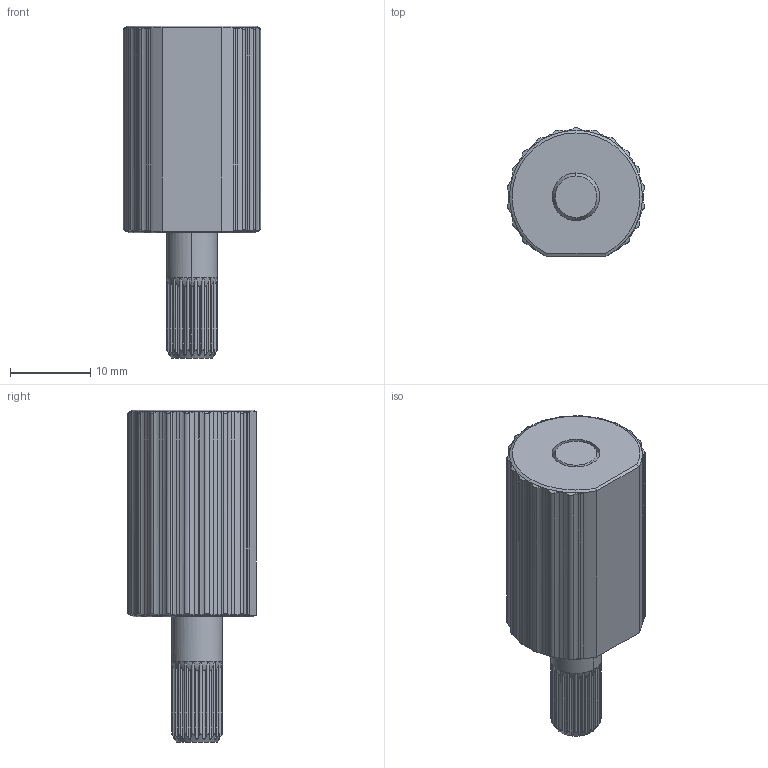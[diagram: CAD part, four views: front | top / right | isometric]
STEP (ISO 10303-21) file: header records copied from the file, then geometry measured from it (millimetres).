
FILE_DESCRIPTION (( 'STEP AP214' ), '1' );
FILE_NAME ('Reell TI-340-X.XX-01.STEP', '2014-10-17T13:43:22', ( 'OSI_Administrator' ), ( '' ), 'SwSTEP 2.0', 'SolidWorks 2014', '' );
FILE_SCHEMA (( 'AUTOMOTIVE_DESIGN' ));
Length unit declared in the file: millimetre
Products named in the file (1): Reell TI-340-X.XX-01
Bounding box: 17.13 x 16.05 x 41.44 mm (x, y, z)
Volume: 6096.7 mm3; surface area: 2184.2 mm2
Topology: 1 solids, 1 shells, 236 faces, 650 edges, 418 vertices
Faces by surface type: cylinder 139, plane 47, torus 34, cone 16
Entity records: 8606 total; most frequent: CARTESIAN_POINT 3165, ORIENTED_EDGE 1300, DIRECTION 892, EDGE_CURVE 650, VERTEX_POINT 418, AXIS2_PLACEMENT_3D 347, B_SPLINE_CURVE_WITH_KNOTS 342, EDGE_LOOP 238
